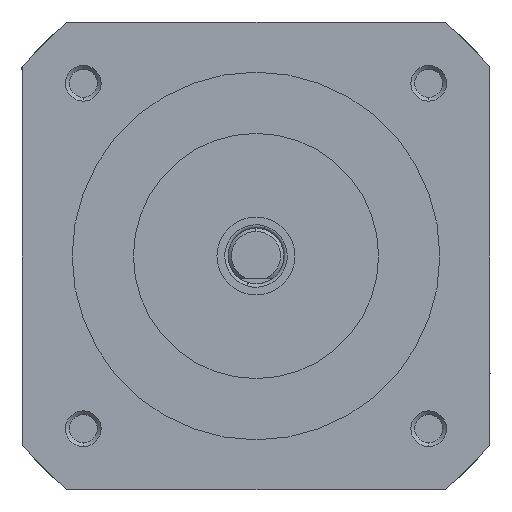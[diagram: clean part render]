
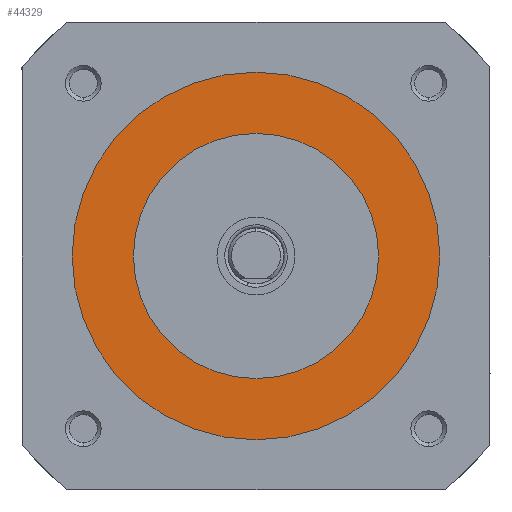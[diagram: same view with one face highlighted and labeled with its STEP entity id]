
A CAD part, left-side view. The second image highlights one B-rep face of the part: STEP entity #44329.
In plain terms, the highlighted planar face has unit normal (-1, 0, 0).
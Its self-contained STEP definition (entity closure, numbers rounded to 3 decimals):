
#14149 = EDGE_LOOP ( 'NONE', ( #43750, #37545 ) ) ;
#37545 = ORIENTED_EDGE ( 'NONE', *, *, #230540, .F. ) ;
#43750 = ORIENTED_EDGE ( 'NONE', *, *, #91151, .F. ) ;
#44329 = ADVANCED_FACE ( 'NONE', ( #70841, #210938 ), #189593, .T. ) ;
#50233 = DIRECTION ( 'NONE',  ( -1., 0., 0. ) ) ;
#65074 = AXIS2_PLACEMENT_3D ( 'NONE', #212597, #96980, #75527 ) ;
#70841 = FACE_OUTER_BOUND ( 'NONE', #123578, .T. ) ;
#71581 = CARTESIAN_POINT ( 'NONE',  ( -25.026, 68.032, 83.784 ) ) ;
#75527 = DIRECTION ( 'NONE',  ( 0., 0., 1. ) ) ;
#79882 = DIRECTION ( 'NONE',  ( 0., 0., 1. ) ) ;
#81331 = CIRCLE ( 'NONE', #241972, 16.5 ) ;
#91151 = EDGE_CURVE ( 'NONE', #167335, #249288, #244728, .T. ) ;
#96980 = DIRECTION ( 'NONE',  ( -1., 0., 0. ) ) ;
#97763 = DIRECTION ( 'NONE',  ( 0., 0., 1. ) ) ;
#103590 = ORIENTED_EDGE ( 'NONE', *, *, #162205, .T. ) ;
#117692 = ORIENTED_EDGE ( 'NONE', *, *, #194522, .T. ) ;
#120577 = CARTESIAN_POINT ( 'NONE',  ( -25.026, 68.032, 72.784 ) ) ;
#123578 = EDGE_LOOP ( 'NONE', ( #117692, #103590 ) ) ;
#124059 = DIRECTION ( 'NONE',  ( -1., 0., 0. ) ) ;
#127947 = DIRECTION ( 'NONE',  ( -1., 0., 0. ) ) ;
#143097 = DIRECTION ( 'NONE',  ( 0., 0., 1. ) ) ;
#151397 = CARTESIAN_POINT ( 'NONE',  ( -25.026, 68.032, 67.284 ) ) ;
#162205 = EDGE_CURVE ( 'NONE', #222178, #180786, #81331, .T. ) ;
#167335 = VERTEX_POINT ( 'NONE', #120577 ) ;
#172066 = AXIS2_PLACEMENT_3D ( 'NONE', #286437, #283439, #97763 ) ;
#179748 = CIRCLE ( 'NONE', #286951, 11. ) ;
#180786 = VERTEX_POINT ( 'NONE', #221158 ) ;
#189593 = PLANE ( 'NONE',  #222598 ) ;
#194522 = EDGE_CURVE ( 'NONE', #180786, #222178, #196361, .T. ) ;
#196361 = CIRCLE ( 'NONE', #65074, 16.5 ) ;
#210938 = FACE_BOUND ( 'NONE', #14149, .T. ) ;
#212055 = CARTESIAN_POINT ( 'NONE',  ( -25.026, 68.032, 94.784 ) ) ;
#212597 = CARTESIAN_POINT ( 'NONE',  ( -25.026, 68.032, 83.784 ) ) ;
#221158 = CARTESIAN_POINT ( 'NONE',  ( -25.026, 68.032, 100.284 ) ) ;
#221463 = CARTESIAN_POINT ( 'NONE',  ( -25.026, 68.032, 83.784 ) ) ;
#222178 = VERTEX_POINT ( 'NONE', #151397 ) ;
#222598 = AXIS2_PLACEMENT_3D ( 'NONE', #221463, #124059, #79882 ) ;
#230540 = EDGE_CURVE ( 'NONE', #249288, #167335, #179748, .T. ) ;
#241972 = AXIS2_PLACEMENT_3D ( 'NONE', #71581, #50233, #143097 ) ;
#244728 = CIRCLE ( 'NONE', #172066, 11. ) ;
#249288 = VERTEX_POINT ( 'NONE', #212055 ) ;
#263549 = CARTESIAN_POINT ( 'NONE',  ( -25.026, 68.032, 83.784 ) ) ;
#268056 = DIRECTION ( 'NONE',  ( 0., 0., 1. ) ) ;
#283439 = DIRECTION ( 'NONE',  ( -1., 0., 0. ) ) ;
#286437 = CARTESIAN_POINT ( 'NONE',  ( -25.026, 68.032, 83.784 ) ) ;
#286951 = AXIS2_PLACEMENT_3D ( 'NONE', #263549, #127947, #268056 ) ;
